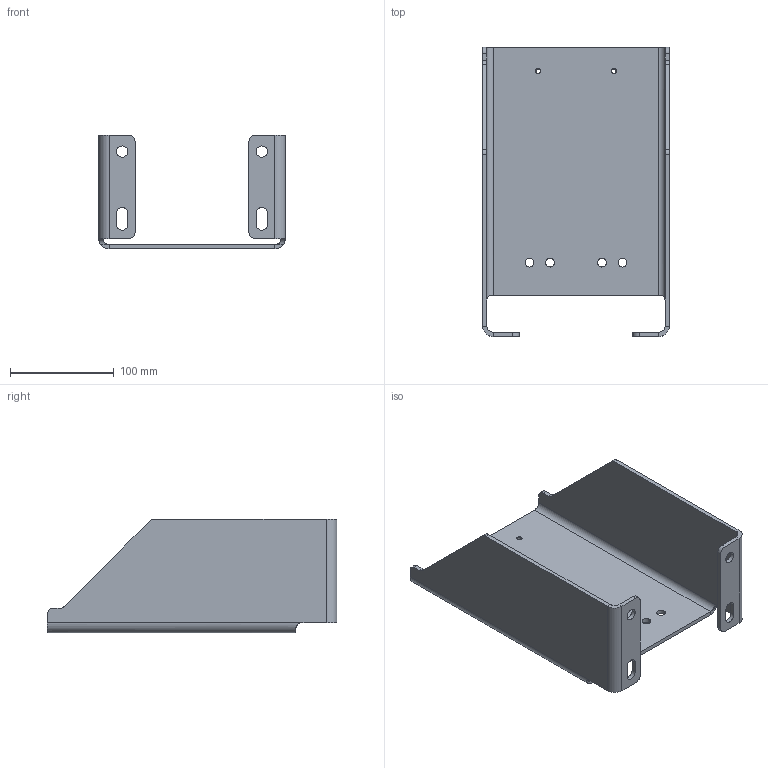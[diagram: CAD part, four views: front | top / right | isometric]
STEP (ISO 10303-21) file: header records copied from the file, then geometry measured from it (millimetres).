
FILE_DESCRIPTION((''),'2;1');
FILE_NAME('2027294','2018-10-11T',('thampe'),(''),'PRO/ENGINEER BY PARAMETRIC TECHNOLOGY CORPORATION, 2016100','PRO/ENGINEER BY PARAMETRIC TECHNOLOGY CORPORATION, 2016100','');
FILE_SCHEMA(('AUTOMOTIVE_DESIGN { 1 0 10303 214 1 1 1 1 }'));
Length unit declared in the file: millimetre
Products named in the file (1): 2027294
Bounding box: 180 x 279.5 x 110 mm (x, y, z)
Volume: 379847.5 mm3; surface area: 196896.3 mm2
Topology: 1 solids, 3 shells, 84 faces, 227 edges, 160 vertices
Faces by surface type: cylinder 44, plane 40
Entity records: 4055 total; most frequent: CARTESIAN_POINT 504, DIRECTION 475, ORIENTED_EDGE 416, PRESENTATION_STYLE_ASSIGNMENT 230, STYLED_ITEM 230, CURVE_STYLE 227, EDGE_CURVE 212, AXIS2_PLACEMENT_3D 167
